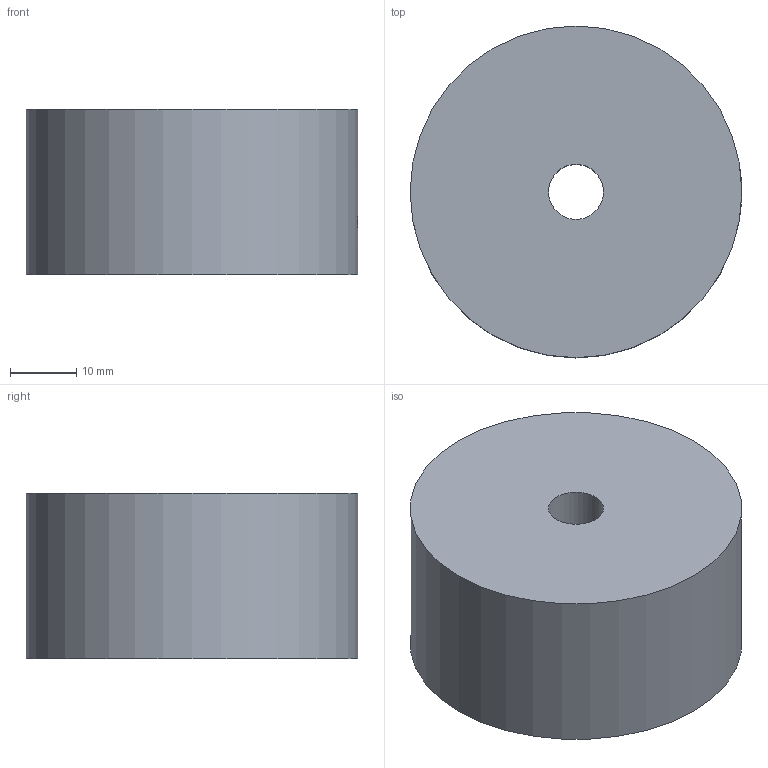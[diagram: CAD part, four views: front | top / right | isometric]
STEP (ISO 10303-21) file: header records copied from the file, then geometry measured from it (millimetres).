
FILE_DESCRIPTION(('Open CASCADE Model'),'2;1');
FILE_NAME('Open CASCADE Shape Model','2026-10-21T16:54:02',('Author'),( 'Open CASCADE'),'Open CASCADE STEP processor 7.9','Open CASCADE 7.9' ,'Unknown');
FILE_SCHEMA(('AUTOMOTIVE_DESIGN { 1 0 10303 214 1 1 1 1 }'));
Length unit declared in the file: millimetre
Products named in the file (1): Open CASCADE STEP translator 7.9 50
Bounding box: 50 x 50 x 25 mm (x, y, z)
Volume: 47555.6 mm3; surface area: 8598 mm2
Topology: 1 solids, 1 shells, 5 faces, 13 edges, 8 vertices
Faces by surface type: cylinder 3, plane 2
Full cylindrical faces by diameter (mm): 3.3 x1, 8.3 x1, 50 x1
Entity records: 780 total; most frequent: CARTESIAN_POINT 521, DIRECTION 41, ORIENTED_EDGE 26, PCURVE 26, DEFINITIONAL_REPRESENTATION 26, LINE 19, VECTOR 19, EDGE_CURVE 13
